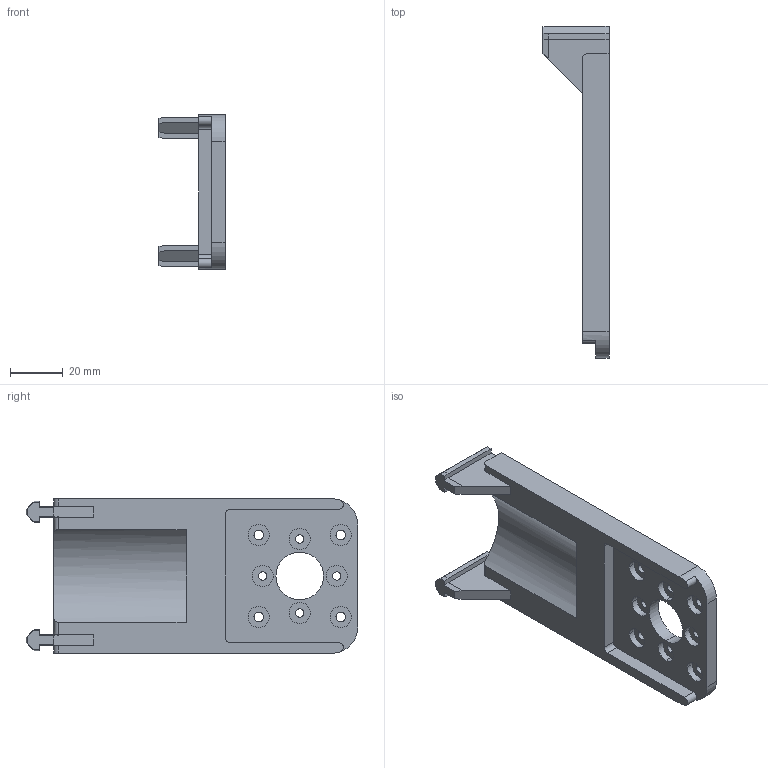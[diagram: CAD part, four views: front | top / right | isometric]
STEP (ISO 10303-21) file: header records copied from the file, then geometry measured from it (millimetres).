
FILE_DESCRIPTION((''),'2;1');
FILE_NAME('0000236838_PRT','2025-11-12T18:39:07',('Wyndorps'),(''),'CREO PARAMETRIC BY PTC INC, 2025010','CREO PARAMETRIC BY PTC INC, 2025010','');
FILE_SCHEMA(('CONFIG_CONTROL_DESIGN'));
Length unit declared in the file: millimetre
Products named in the file (1): 0000236838_PRT
Bounding box: 25 x 125.5 x 58.5 mm (x, y, z)
Volume: 44900.4 mm3; surface area: 19848.9 mm2
Topology: 1 solids, 1 shells, 98 faces, 264 edges, 176 vertices
Faces by surface type: plane 53, cylinder 45
Entity records: 3188 total; most frequent: CARTESIAN_POINT 558, DIRECTION 548, ORIENTED_EDGE 528, EDGE_CURVE 264, AXIS2_PLACEMENT_3D 188, VERTEX_POINT 176, VECTOR 172, LINE 172
